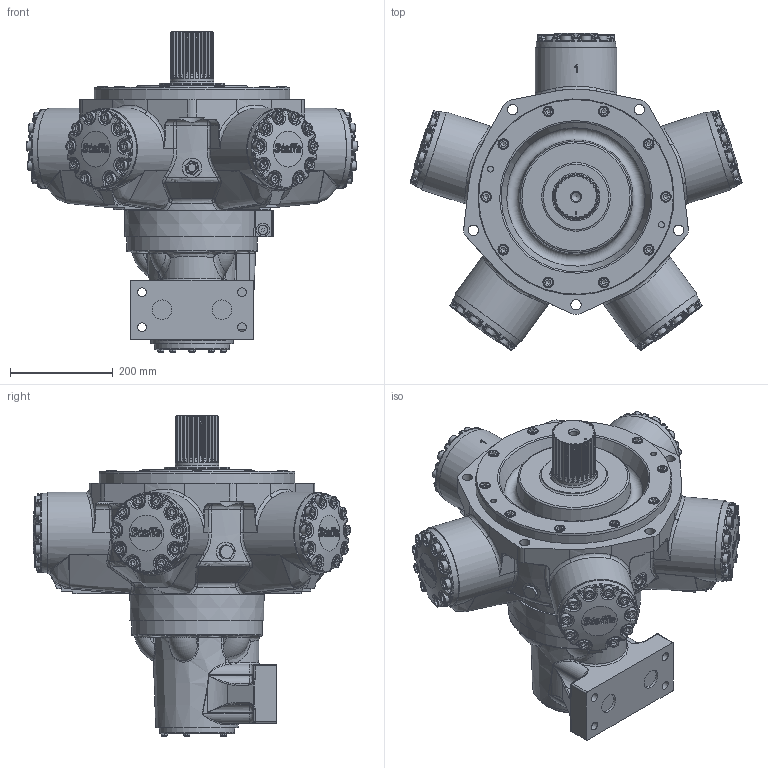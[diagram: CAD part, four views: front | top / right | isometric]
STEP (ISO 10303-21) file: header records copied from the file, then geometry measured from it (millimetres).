
FILE_DESCRIPTION(/* description */ (''),/* implementation_level */ '2;1');
FILE_NAME(/* name */ 'HMC200_Z3_SM4_CS_72.stp',/* time_stamp */ '2025-11-03T11:54:09Z',/* author */ ('ccallanga'),/* organization */ (''),/* preprocessor_version */ 'ST-DEVELOPER v20',/* originating_system */ 'Autodesk Inventor 2024',/* authorisation */ '');
FILE_SCHEMA (('AUTOMOTIVE_DESIGN { 1 0 10303 214 3 1 1 }'));
Products named in the file (1): 017751 HMC200 Web Assembly_Simplify_1
Bounding box: 645.1 x 616.02 x 621.91 mm (x, y, z)
Volume: 50702370.4 mm3; surface area: 1315344.4 mm2
Topology: 1 solids, 1 shells, 4786 faces, 11784 edges, 7054 vertices
Faces by surface type: bspline 1709, plane 1286, cylinder 1065, torus 389, cone 209, sphere 128
Full cylindrical faces by diameter (mm): 2.2 x4, 4 x1, 4.134 x4, 5.5 x4, 6.5 x3, 7 x3, 9.4 x4, 11.328 x2, 11.913 x5, 12 x4, 12.7 x5, 16.51 x1, 17 x4, 17.323 x1, 19 x1, 19.05 x60, 20 x5, 20.637 x60, 23.825 x5, 25 x6, 25.4 x5, 26.92 x2, 28.75 x1, 38 x2, 38.1 x3, 84.4 x1, 88.837 x1, 92.964 x1, 127 x1, 146.05 x1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
Entity records: 240836 total; most frequent: CARTESIAN_POINT 136434, ORIENTED_EDGE 23144, DIRECTION 16836, EDGE_CURVE 11572, VERTEX_POINT 7054, AXIS2_PLACEMENT_3D 6620, EDGE_LOOP 5070, STYLED_ITEM 4787
